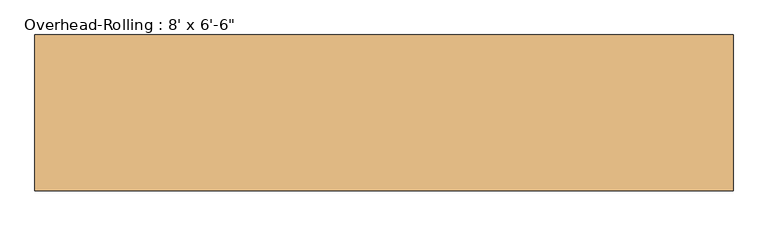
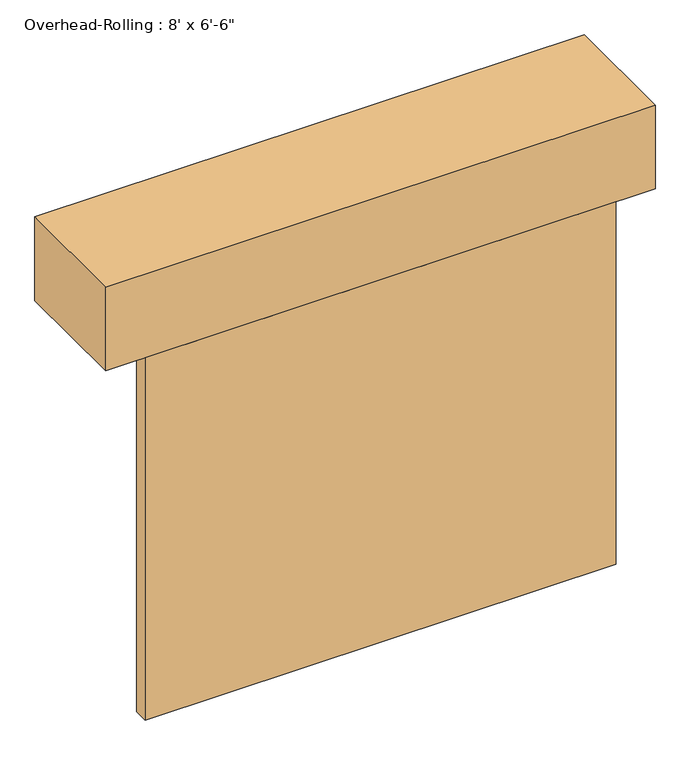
"""IFC4 building model written with IfcOpenShell, lengths in millimetres: door geometry."""

from ifc_helpers import new_model, si_unit, frame, origin, origin_with_axes, place, context, project, spatial, polyline, outline, extrude, source, transform, mapped, element, save


def door_105d0993(model_context):
    return source(origin(), model_context, "Body", "SweptSolid", [
        extrude(outline(polyline([(1219.2, 176.2125), (-1219.2, 176.2125), (-1219.2, 252.4125), (1219.2, 252.4125), (1219.2, 176.2125)])), origin_with_axes(), (0.0, 0.0, 1.0), 1981.2),
        extrude(outline(polyline([(1422.4, 811.2125), (1422.4, 176.2125), (-1422.4, 176.2125), (-1422.4, 811.2125), (1422.4, 811.2125)])), frame((0.0, 0.0, 1981.2), z_axis=(0.0, 0.0, 1.0), x_axis=(1.0, 0.0, 0.0)), (0.0, 0.0, 1.0), 457.2),
    ])


if __name__ == "__main__":
    model = new_model("IFC4")
    model_context = context("Model", 3, world=origin())
    ifc_project = project(units=[si_unit("LENGTHUNIT", "METRE", prefix="MILLI")], contexts=[model_context])
    site = spatial("IfcSite", under=ifc_project)
    building = spatial("IfcBuilding", under=site)
    placement = place(None, origin())
    door_shape = door_105d0993(model_context)
    element("IfcDoor", 1, ObjectType="Overhead-Rolling : 8' x 6'-6\"", at=placement, inside=building, context=model_context, shape_type="MappedRepresentation", body=[
        mapped(door_shape, transform((0.0, 0.0, 0.0), x_axis=(1.0, 0.0, 0.0), y_axis=(0.0, 1.0, 0.0), z_axis=(0.0, 0.0, 1.0))),
    ])
    save(model, "model.ifc")
